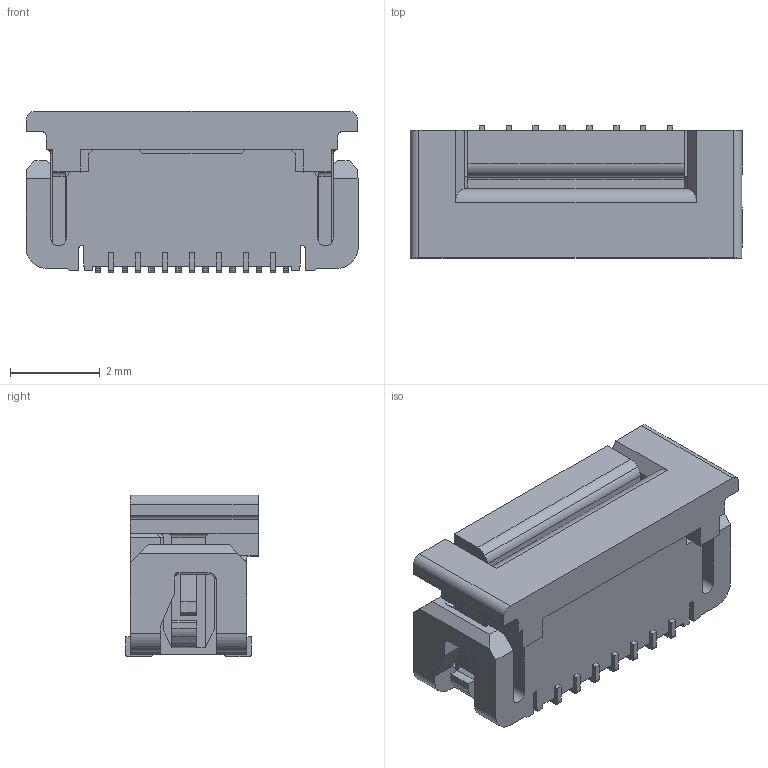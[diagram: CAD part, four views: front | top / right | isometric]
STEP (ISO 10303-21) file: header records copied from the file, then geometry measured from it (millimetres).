
FILE_DESCRIPTION (( 'STEP AP214' ), '1' );
FILE_NAME ('006841015000.STEP', '2023-02-28T23:33:10', ( '' ), ( '' ), 'SwSTEP 2.0', 'SolidWorks 2021', '' );
FILE_SCHEMA (( 'AUTOMOTIVE_DESIGN' ));
Length unit declared in the file: millimetre
Products named in the file (1): 006841015000
Bounding box: 7.4 x 2.95 x 3.6 mm (x, y, z)
Volume: 54.7 mm3; surface area: 215.5 mm2
Topology: 1 solids, 1 shells, 402 faces, 1258 edges, 844 vertices
Faces by surface type: plane 296, cylinder 106
Entity records: 14032 total; most frequent: CARTESIAN_POINT 2769, ORIENTED_EDGE 2516, DIRECTION 2168, EDGE_CURVE 1258, LINE 1006, VECTOR 1006, VERTEX_POINT 844, AXIS2_PLACEMENT_3D 581
